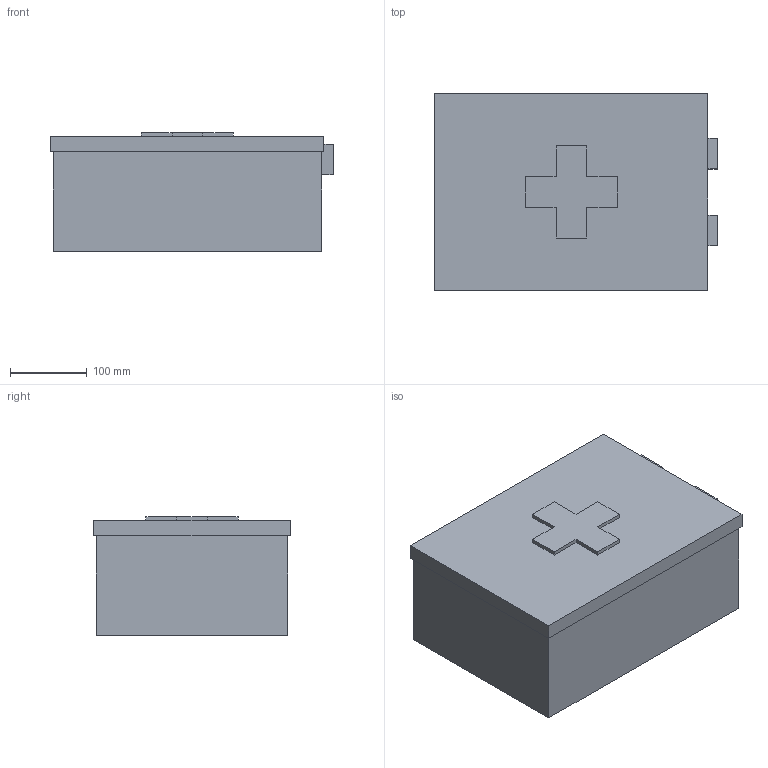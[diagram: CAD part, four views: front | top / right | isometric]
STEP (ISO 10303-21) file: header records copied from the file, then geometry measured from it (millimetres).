
FILE_DESCRIPTION(/* description */ (''),/* implementation_level */ '2;1');
FILE_NAME(/* name */ 'repair_kit.step',/* time_stamp */ '2026-11-14T21:13:14+01:00',/* author */ ('malgo'),/* organization */ (''),/* preprocessor_version */ 'ST-DEVELOPER v20.1',/* originating_system */ 'Autodesk Inventor 2026',/* authorisation */ '');
FILE_SCHEMA (('AUTOMOTIVE_DESIGN { 1 0 10303 214 3 1 1 }'));
Length unit declared in the file: metre
Products named in the file (1): repair_kit
Bounding box: 368 x 256 x 155 mm (x, y, z)
Volume: 13283320 mm3; surface area: 369352 mm2
Topology: 1 solids, 1 shells, 35 faces, 96 edges, 64 vertices
Faces by surface type: plane 35
Entity records: 1127 total; most frequent: CARTESIAN_POINT 196, ORIENTED_EDGE 192, DIRECTION 168, LINE 96, VECTOR 96, EDGE_CURVE 96, VERTEX_POINT 64, EDGE_LOOP 36
